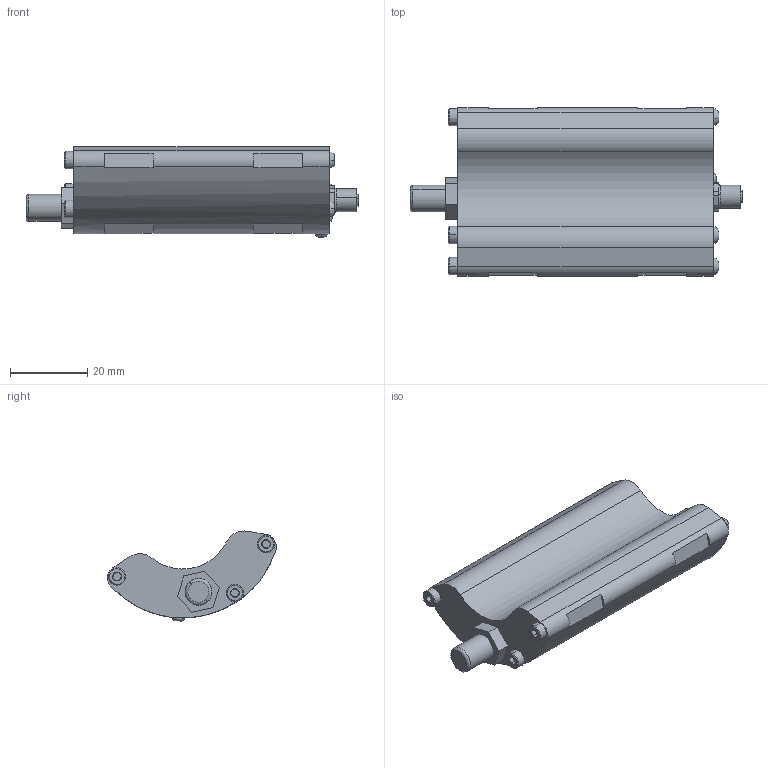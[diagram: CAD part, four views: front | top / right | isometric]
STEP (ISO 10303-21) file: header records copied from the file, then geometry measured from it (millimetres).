
FILE_DESCRIPTION (( 'STEP AP214' ), '1' );
FILE_NAME ('CBT micro, rev7 Customer Model.STEP', '2024-11-01T11:16:16', ( '' ), ( '' ), 'SwSTEP 2.0', 'SolidWorks 2021', '' );
FILE_SCHEMA (( 'AUTOMOTIVE_DESIGN' ));
Length unit declared in the file: inch
Products named in the file (1): CBT micro, rev7 Customer Model
Bounding box: 86.22 x 43.88 x 23.4 mm (x, y, z)
Volume: 37701.7 mm3; surface area: 9579.7 mm2
Topology: 1 solids, 10 shells, 489 faces, 1330 edges, 879 vertices
Faces by surface type: plane 172, cylinder 167, cone 98, bspline 40, torus 6, sphere 6
Entity records: 27636 total; most frequent: CARTESIAN_POINT 10551, ORIENTED_EDGE 2644, DIRECTION 1580, EDGE_CURVE 1322, VERTEX_POINT 879, B_SPLINE_CURVE_WITH_KNOTS 779, AXIS2_PLACEMENT_3D 634, EDGE_LOOP 533
